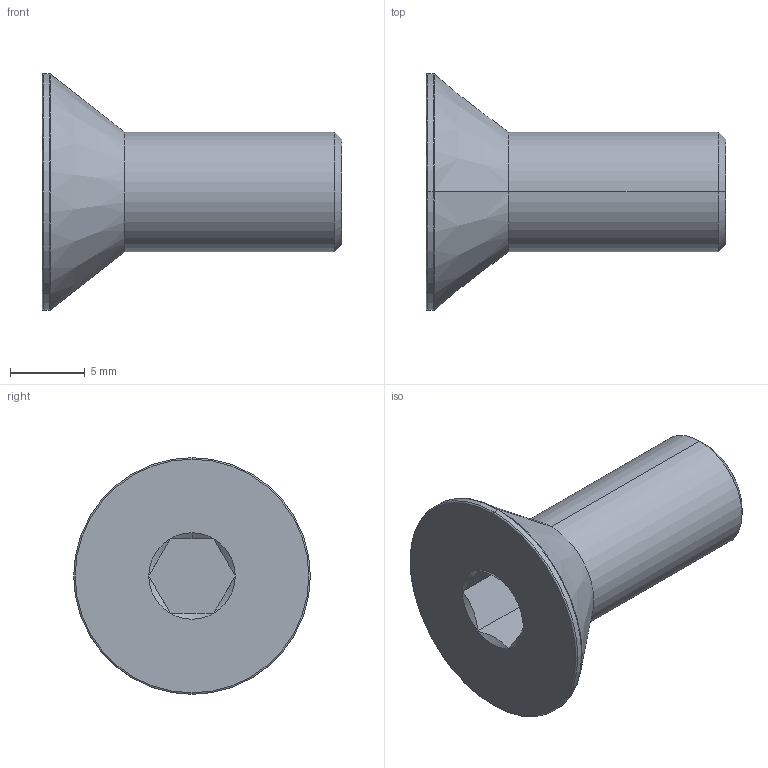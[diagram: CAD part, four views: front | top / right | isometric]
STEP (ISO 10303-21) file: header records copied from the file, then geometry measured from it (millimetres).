
FILE_DESCRIPTION (( 'STEP AP203' ), '1' );
FILE_NAME ('LGDB-304-M8x20.STEP', '2026-08-12T01:47:42', ( '' ), ( '' ), 'SwSTEP 2.0', 'SolidWorks 2020', '' );
FILE_SCHEMA (( 'CONFIG_CONTROL_DESIGN' ));
Length unit declared in the file: millimetre
Products named in the file (1): LGDB-304-M8x20
Bounding box: 20 x 15.8 x 15.8 mm (x, y, z)
Volume: 1312.7 mm3; surface area: 929.9 mm2
Topology: 1 solids, 1 shells, 28 faces, 53 edges, 28 vertices
Faces by surface type: cone 11, plane 9, torus 4, cylinder 4
Entity records: 796 total; most frequent: CARTESIAN_POINT 157, DIRECTION 129, ORIENTED_EDGE 106, AXIS2_PLACEMENT_3D 54, EDGE_CURVE 53, EDGE_LOOP 29, ADVANCED_FACE 28, FACE_OUTER_BOUND 28
